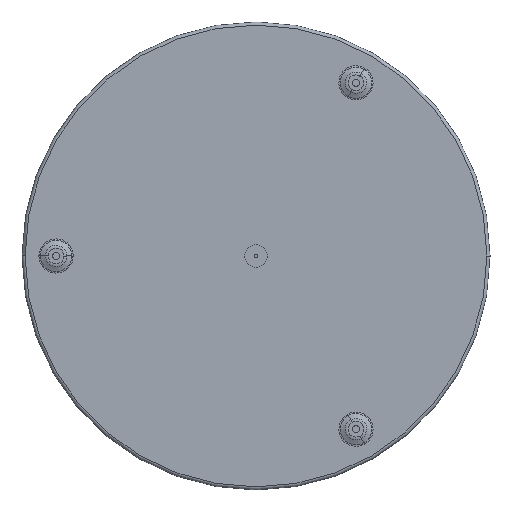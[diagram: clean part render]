
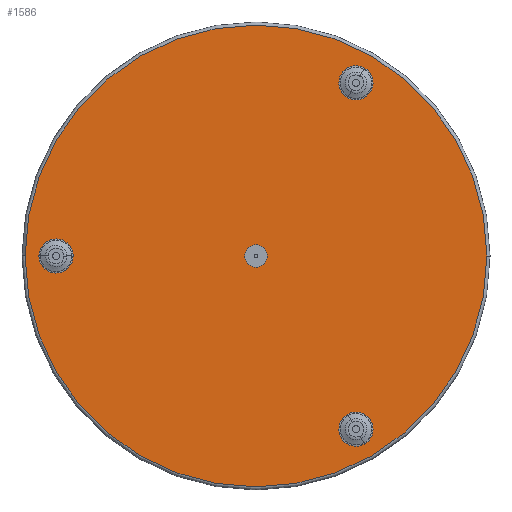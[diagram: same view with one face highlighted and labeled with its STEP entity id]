
A CAD part, front view. The second image highlights one B-rep face of the part: STEP entity #1586.
In plain terms, the highlighted planar face has unit normal (0, -1, 0).
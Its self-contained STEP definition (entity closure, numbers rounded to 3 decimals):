
#24=CARTESIAN_POINT('',(0.,0.,0.));
#25=DIRECTION('',(0.,1.,0.));
#26=DIRECTION('',(1.,0.,0.));
#27=AXIS2_PLACEMENT_3D('',#24,#25,#26);
#33=CARTESIAN_POINT('',(0.,0.,0.));
#34=DIRECTION('',(0.,1.,0.));
#35=DIRECTION('',(1.,0.,-0.001));
#36=AXIS2_PLACEMENT_3D('',#33,#34,#35);
#41=CARTESIAN_POINT('',(0.,0.,0.));
#42=DIRECTION('',(0.,1.,0.));
#43=DIRECTION('',(-1.,0.,0.));
#44=AXIS2_PLACEMENT_3D('',#41,#42,#43);
#49=CARTESIAN_POINT('',(0.,0.,0.));
#50=DIRECTION('',(0.,1.,0.));
#51=DIRECTION('',(-1.,0.,0.001));
#52=AXIS2_PLACEMENT_3D('',#49,#50,#51);
#57=CARTESIAN_POINT('',(0.,0.,0.));
#58=DIRECTION('',(0.,-1.,0.));
#59=DIRECTION('',(0.,0.,-1.));
#60=AXIS2_PLACEMENT_3D('',#57,#58,#59);
#65=CARTESIAN_POINT('',(0.,0.,0.));
#66=DIRECTION('',(0.,-1.,0.));
#67=DIRECTION('',(0.,0.,1.));
#68=AXIS2_PLACEMENT_3D('',#65,#66,#67);
#73=CARTESIAN_POINT('',(-128.172,0.,0.));
#74=DIRECTION('',(0.,-1.,0.));
#75=DIRECTION('',(1.,0.,0.));
#76=AXIS2_PLACEMENT_3D('',#73,#74,#75);
#81=CARTESIAN_POINT('',(-128.172,0.,0.));
#82=DIRECTION('',(0.,-1.,0.));
#83=DIRECTION('',(-1.,0.,0.));
#84=AXIS2_PLACEMENT_3D('',#81,#82,#83);
#89=CARTESIAN_POINT('',(64.086,0.,111.));
#90=DIRECTION('',(0.,-1.,0.));
#91=DIRECTION('',(-0.5,0.,-0.866));
#92=AXIS2_PLACEMENT_3D('',#89,#90,#91);
#97=CARTESIAN_POINT('',(64.086,0.,111.));
#98=DIRECTION('',(0.,-1.,0.));
#99=DIRECTION('',(0.515,0.,0.857));
#100=AXIS2_PLACEMENT_3D('',#97,#98,#99);
#105=CARTESIAN_POINT('',(64.086,0.,111.));
#106=DIRECTION('',(0.,-1.,0.));
#107=DIRECTION('',(0.5,0.,0.866));
#108=AXIS2_PLACEMENT_3D('',#105,#106,#107);
#113=CARTESIAN_POINT('',(64.086,0.,111.));
#114=DIRECTION('',(0.,-1.,0.));
#115=DIRECTION('',(-0.515,0.,-0.857));
#116=AXIS2_PLACEMENT_3D('',#113,#114,#115);
#121=CARTESIAN_POINT('',(64.086,0.,-111.));
#122=DIRECTION('',(0.,-1.,0.));
#123=DIRECTION('',(-0.5,0.,0.866));
#124=AXIS2_PLACEMENT_3D('',#121,#122,#123);
#129=CARTESIAN_POINT('',(64.086,0.,-111.));
#130=DIRECTION('',(0.,-1.,0.));
#131=DIRECTION('',(0.485,0.,-0.875));
#132=AXIS2_PLACEMENT_3D('',#129,#130,#131);
#137=CARTESIAN_POINT('',(64.086,0.,-111.));
#138=DIRECTION('',(0.,-1.,0.));
#139=DIRECTION('',(0.5,0.,-0.866));
#140=AXIS2_PLACEMENT_3D('',#137,#138,#139);
#145=CARTESIAN_POINT('',(64.086,0.,-111.));
#146=DIRECTION('',(0.,-1.,0.));
#147=DIRECTION('',(-0.485,0.,0.875));
#148=AXIS2_PLACEMENT_3D('',#145,#146,#147);
#852=CARTESIAN_POINT('',(-128.172,0.,0.));
#853=DIRECTION('',(0.,1.,0.));
#854=DIRECTION('',(1.,0.,0.));
#855=AXIS2_PLACEMENT_3D('',#852,#853,#854);
#884=CARTESIAN_POINT('',(-128.172,0.,0.));
#885=DIRECTION('',(0.,1.,0.));
#886=DIRECTION('',(-1.,0.,0.));
#887=AXIS2_PLACEMENT_3D('',#884,#885,#886);
#1299=CARTESIAN_POINT('',(148.,0.,-0.216));
#1300=CARTESIAN_POINT('',(-148.,0.,0.));
#1301=VERTEX_POINT('',#1299);
#1302=VERTEX_POINT('',#1300);
#1303=CARTESIAN_POINT('',(148.,0.,0.));
#1304=VERTEX_POINT('',#1303);
#1305=CARTESIAN_POINT('',(-148.,0.,0.216));
#1306=VERTEX_POINT('',#1305);
#1307=CARTESIAN_POINT('',(0.,0.,-7.25));
#1308=CARTESIAN_POINT('',(0.,0.,7.25));
#1309=VERTEX_POINT('',#1307);
#1310=VERTEX_POINT('',#1308);
#1311=CARTESIAN_POINT('',(-117.209,0.,0.));
#1312=CARTESIAN_POINT('',(-139.133,0.,0.195));
#1313=VERTEX_POINT('',#1311);
#1314=VERTEX_POINT('',#1312);
#1315=CARTESIAN_POINT('',(-139.134,0.,0.));
#1316=VERTEX_POINT('',#1315);
#1317=CARTESIAN_POINT('',(-117.211,0.,-0.195));
#1318=VERTEX_POINT('',#1317);
#1319=CARTESIAN_POINT('',(58.605,0.,101.506));
#1320=CARTESIAN_POINT('',(69.735,0.,120.395));
#1321=VERTEX_POINT('',#1319);
#1322=VERTEX_POINT('',#1320);
#1323=CARTESIAN_POINT('',(69.567,0.,120.494));
#1324=VERTEX_POINT('',#1323);
#1325=CARTESIAN_POINT('',(58.437,0.,101.605));
#1326=VERTEX_POINT('',#1325);
#1327=CARTESIAN_POINT('',(58.605,0.,-101.506));
#1328=CARTESIAN_POINT('',(69.398,0.,-120.59));
#1329=VERTEX_POINT('',#1327);
#1330=VERTEX_POINT('',#1328);
#1331=CARTESIAN_POINT('',(69.567,0.,-120.494));
#1332=VERTEX_POINT('',#1331);
#1333=CARTESIAN_POINT('',(58.774,0.,-101.41));
#1334=VERTEX_POINT('',#1333);
#1535=CARTESIAN_POINT('',(0.,0.,0.));
#1536=DIRECTION('',(0.,1.,0.));
#1537=DIRECTION('',(1.,0.,0.));
#1538=AXIS2_PLACEMENT_3D('',#1535,#1536,#1537);
#1539=PLANE('',#1538);
#1541=ORIENTED_EDGE('',*,*,#1540,.T.);
#1543=ORIENTED_EDGE('',*,*,#1542,.T.);
#1545=ORIENTED_EDGE('',*,*,#1544,.T.);
#1547=ORIENTED_EDGE('',*,*,#1546,.T.);
#1548=EDGE_LOOP('',(#1541,#1543,#1545,#1547));
#1549=FACE_OUTER_BOUND('',#1548,.F.);
#1551=ORIENTED_EDGE('',*,*,#1550,.T.);
#1553=ORIENTED_EDGE('',*,*,#1552,.T.);
#1554=EDGE_LOOP('',(#1551,#1553));
#1555=FACE_BOUND('',#1554,.F.);
#1557=ORIENTED_EDGE('',*,*,#1556,.T.);
#1559=ORIENTED_EDGE('',*,*,#1558,.F.);
#1561=ORIENTED_EDGE('',*,*,#1560,.T.);
#1563=ORIENTED_EDGE('',*,*,#1562,.F.);
#1564=EDGE_LOOP('',(#1557,#1559,#1561,#1563));
#1565=FACE_BOUND('',#1564,.F.);
#1567=ORIENTED_EDGE('',*,*,#1566,.T.);
#1569=ORIENTED_EDGE('',*,*,#1568,.T.);
#1571=ORIENTED_EDGE('',*,*,#1570,.T.);
#1573=ORIENTED_EDGE('',*,*,#1572,.T.);
#1574=EDGE_LOOP('',(#1567,#1569,#1571,#1573));
#1575=FACE_BOUND('',#1574,.F.);
#1577=ORIENTED_EDGE('',*,*,#1576,.T.);
#1579=ORIENTED_EDGE('',*,*,#1578,.T.);
#1581=ORIENTED_EDGE('',*,*,#1580,.T.);
#1583=ORIENTED_EDGE('',*,*,#1582,.T.);
#1584=EDGE_LOOP('',(#1577,#1579,#1581,#1583));
#1585=FACE_BOUND('',#1584,.F.);
#1586=ADVANCED_FACE('',(#1549,#1555,#1565,#1575,#1585),#1539,.F.);
#28=CIRCLE('',#27,148.);
#37=CIRCLE('',#36,148.);
#45=CIRCLE('',#44,148.);
#53=CIRCLE('',#52,148.);
#61=CIRCLE('',#60,7.25);
#69=CIRCLE('',#68,7.25);
#77=CIRCLE('',#76,10.963);
#85=CIRCLE('',#84,10.963);
#93=CIRCLE('',#92,10.963);
#101=CIRCLE('',#100,10.963);
#109=CIRCLE('',#108,10.963);
#117=CIRCLE('',#116,10.963);
#125=CIRCLE('',#124,10.963);
#133=CIRCLE('',#132,10.963);
#141=CIRCLE('',#140,10.963);
#149=CIRCLE('',#148,10.963);
#856=CIRCLE('',#855,10.963);
#888=CIRCLE('',#887,10.963);
#1540=EDGE_CURVE('',#1304,#1301,#28,.T.);
#1542=EDGE_CURVE('',#1301,#1302,#37,.T.);
#1544=EDGE_CURVE('',#1302,#1306,#45,.T.);
#1546=EDGE_CURVE('',#1306,#1304,#53,.T.);
#1550=EDGE_CURVE('',#1309,#1310,#61,.T.);
#1552=EDGE_CURVE('',#1310,#1309,#69,.T.);
#1556=EDGE_CURVE('',#1313,#1314,#77,.T.);
#1558=EDGE_CURVE('',#1316,#1314,#888,.T.);
#1560=EDGE_CURVE('',#1316,#1318,#85,.T.);
#1562=EDGE_CURVE('',#1313,#1318,#856,.T.);
#1566=EDGE_CURVE('',#1321,#1322,#93,.T.);
#1568=EDGE_CURVE('',#1322,#1324,#101,.T.);
#1570=EDGE_CURVE('',#1324,#1326,#109,.T.);
#1572=EDGE_CURVE('',#1326,#1321,#117,.T.);
#1576=EDGE_CURVE('',#1329,#1330,#125,.T.);
#1578=EDGE_CURVE('',#1330,#1332,#133,.T.);
#1580=EDGE_CURVE('',#1332,#1334,#141,.T.);
#1582=EDGE_CURVE('',#1334,#1329,#149,.T.);
